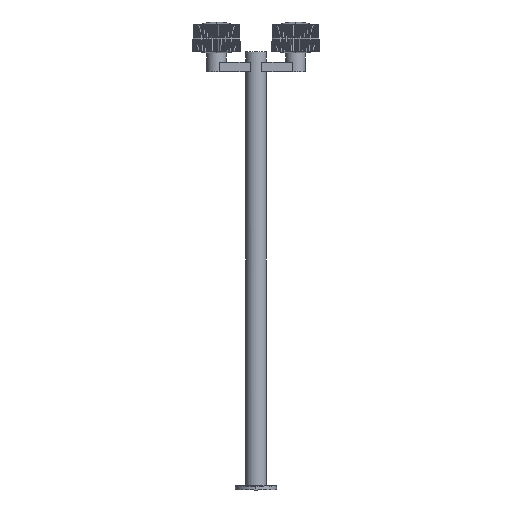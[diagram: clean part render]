
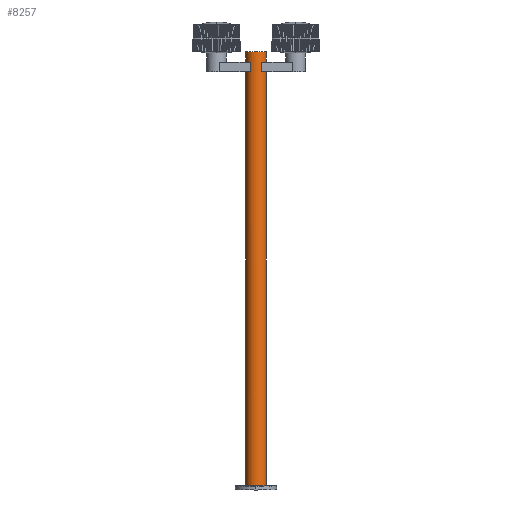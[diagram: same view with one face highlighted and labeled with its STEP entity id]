
A CAD part, front view. The second image highlights one B-rep face of the part: STEP entity #8257.
In plain terms, the highlighted cylindrical face has radius 47.009 mm (diameter 94.018 mm), a partial arc.
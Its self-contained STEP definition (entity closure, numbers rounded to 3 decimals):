
#505=FACE_OUTER_BOUND('',#947,.T.);
#947=EDGE_LOOP('',(#5889,#5890,#5891,#5892,#5893,#5894,#5895,#5896,#5897,
#5898,#5899,#5900,#5901));
#1376=LINE('',#11575,#2458);
#1397=LINE('',#11651,#2479);
#1400=LINE('',#11664,#2482);
#1401=LINE('',#11666,#2483);
#1402=LINE('',#11671,#2484);
#1403=LINE('',#11672,#2485);
#2458=VECTOR('',#9350,304.8);
#2479=VECTOR('',#9433,304.8);
#2482=VECTOR('',#9450,304.8);
#2483=VECTOR('',#9451,304.8);
#2484=VECTOR('',#9456,304.8);
#2485=VECTOR('',#9457,304.8);
#3545=CIRCLE('',#8704,47.009);
#3546=CIRCLE('',#8708,47.009);
#3560=CIRCLE('',#8734,47.009);
#3563=CIRCLE('',#8740,47.009);
#3567=CIRCLE('',#8748,47.009);
#3568=CIRCLE('',#8749,47.009);
#3569=CIRCLE('',#8750,47.009);
#3689=VERTEX_POINT('',#11555);
#3692=VERTEX_POINT('',#11562);
#3696=VERTEX_POINT('',#11574);
#3697=VERTEX_POINT('',#11578);
#3712=VERTEX_POINT('',#11629);
#3714=VERTEX_POINT('',#11632);
#3720=VERTEX_POINT('',#11649);
#3721=VERTEX_POINT('',#11655);
#3722=VERTEX_POINT('',#11661);
#3723=VERTEX_POINT('',#11662);
#3724=VERTEX_POINT('',#11665);
#3726=VERTEX_POINT('',#11669);
#3727=VERTEX_POINT('',#11675);
#4517=EDGE_CURVE('',#3689,#3692,#3545,.T.);
#4522=EDGE_CURVE('',#3696,#3689,#1376,.T.);
#4524=EDGE_CURVE('',#3697,#3696,#3546,.T.);
#4549=EDGE_CURVE('',#3714,#3712,#3560,.T.);
#4559=EDGE_CURVE('',#3712,#3720,#1397,.T.);
#4563=EDGE_CURVE('',#3720,#3721,#3563,.T.);
#4565=EDGE_CURVE('',#3721,#3722,#1400,.T.);
#4566=EDGE_CURVE('',#3724,#3714,#1401,.T.);
#4569=EDGE_CURVE('',#3692,#3726,#1402,.T.);
#4570=EDGE_CURVE('',#3723,#3697,#1403,.T.);
#4571=EDGE_CURVE('',#3723,#3722,#3567,.T.);
#4572=EDGE_CURVE('',#3727,#3726,#3568,.T.);
#4573=EDGE_CURVE('',#3724,#3727,#3569,.T.);
#5889=ORIENTED_EDGE('',*,*,#4571,.F.);
#5890=ORIENTED_EDGE('',*,*,#4570,.T.);
#5891=ORIENTED_EDGE('',*,*,#4524,.T.);
#5892=ORIENTED_EDGE('',*,*,#4522,.T.);
#5893=ORIENTED_EDGE('',*,*,#4517,.T.);
#5894=ORIENTED_EDGE('',*,*,#4569,.T.);
#5895=ORIENTED_EDGE('',*,*,#4572,.F.);
#5896=ORIENTED_EDGE('',*,*,#4573,.F.);
#5897=ORIENTED_EDGE('',*,*,#4566,.T.);
#5898=ORIENTED_EDGE('',*,*,#4549,.T.);
#5899=ORIENTED_EDGE('',*,*,#4559,.T.);
#5900=ORIENTED_EDGE('',*,*,#4563,.T.);
#5901=ORIENTED_EDGE('',*,*,#4565,.T.);
#8201=CYLINDRICAL_SURFACE('',#8747,47.009);
#8257=ADVANCED_FACE('',(#505),#8201,.T.);
#8704=AXIS2_PLACEMENT_3D('',#11564,#9340,#9341);
#8708=AXIS2_PLACEMENT_3D('',#11579,#9354,#9355);
#8734=AXIS2_PLACEMENT_3D('',#11633,#9417,#9418);
#8740=AXIS2_PLACEMENT_3D('',#11657,#9440,#9441);
#8747=AXIS2_PLACEMENT_3D('',#11673,#9458,#9459);
#8748=AXIS2_PLACEMENT_3D('',#11674,#9460,#9461);
#8749=AXIS2_PLACEMENT_3D('',#11676,#9462,#9463);
#8750=AXIS2_PLACEMENT_3D('',#11677,#9464,#9465);
#9340=DIRECTION('center_axis',(0.,0.,-1.));
#9341=DIRECTION('ref_axis',(1.,0.,0.));
#9350=DIRECTION('',(0.,0.,-1.));
#9354=DIRECTION('center_axis',(0.,0.,1.));
#9355=DIRECTION('ref_axis',(1.,0.,0.));
#9417=DIRECTION('center_axis',(0.,0.,-1.));
#9418=DIRECTION('ref_axis',(1.,0.,0.));
#9433=DIRECTION('',(0.,0.,1.));
#9440=DIRECTION('center_axis',(0.,0.,1.));
#9441=DIRECTION('ref_axis',(1.,0.,0.));
#9450=DIRECTION('',(0.,0.,1.));
#9451=DIRECTION('',(0.,0.,1.));
#9456=DIRECTION('',(0.,0.,-1.));
#9457=DIRECTION('',(0.,0.,-1.));
#9458=DIRECTION('center_axis',(0.,0.,1.));
#9459=DIRECTION('ref_axis',(1.,0.,0.));
#9460=DIRECTION('center_axis',(0.,0.,1.));
#9461=DIRECTION('ref_axis',(1.,0.,0.));
#9462=DIRECTION('center_axis',(0.,0.,-1.));
#9463=DIRECTION('ref_axis',(1.,0.,0.));
#9464=DIRECTION('center_axis',(0.,0.,-1.));
#9465=DIRECTION('ref_axis',(1.,0.,0.));
#11555=CARTESIAN_POINT('',(-25.403,-39.554,1878.5));
#11562=CARTESIAN_POINT('',(-47.009,0.,1878.5));
#11564=CARTESIAN_POINT('Origin',(0.,0.,1878.5));
#11574=CARTESIAN_POINT('',(-25.403,-39.554,1920.5));
#11575=CARTESIAN_POINT('',(-25.403,-39.554,1920.5));
#11578=CARTESIAN_POINT('',(-47.009,0.,1920.5));
#11579=CARTESIAN_POINT('Origin',(0.,0.,1920.5));
#11629=CARTESIAN_POINT('',(25.403,-39.554,1878.5));
#11632=CARTESIAN_POINT('',(47.009,0.,1878.5));
#11633=CARTESIAN_POINT('Origin',(0.,0.,1878.5));
#11649=CARTESIAN_POINT('',(25.403,-39.554,1920.5));
#11651=CARTESIAN_POINT('',(25.403,-39.554,1878.5));
#11655=CARTESIAN_POINT('',(47.009,0.,1920.5));
#11657=CARTESIAN_POINT('Origin',(0.,0.,1920.5));
#11661=CARTESIAN_POINT('',(47.009,0.,1968.));
#11662=CARTESIAN_POINT('',(-47.009,0.,1968.));
#11664=CARTESIAN_POINT('',(47.009,0.,1920.5));
#11665=CARTESIAN_POINT('',(47.009,0.,20.));
#11666=CARTESIAN_POINT('',(47.009,0.,20.));
#11669=CARTESIAN_POINT('',(-47.009,0.,20.));
#11671=CARTESIAN_POINT('',(-47.009,0.,1878.5));
#11672=CARTESIAN_POINT('',(-47.009,0.,1968.));
#11673=CARTESIAN_POINT('Origin',(0.,0.,20.));
#11674=CARTESIAN_POINT('Origin',(0.,0.,1968.));
#11675=CARTESIAN_POINT('',(0.,-47.009,20.));
#11676=CARTESIAN_POINT('Origin',(0.,0.,20.));
#11677=CARTESIAN_POINT('Origin',(0.,0.,20.));
